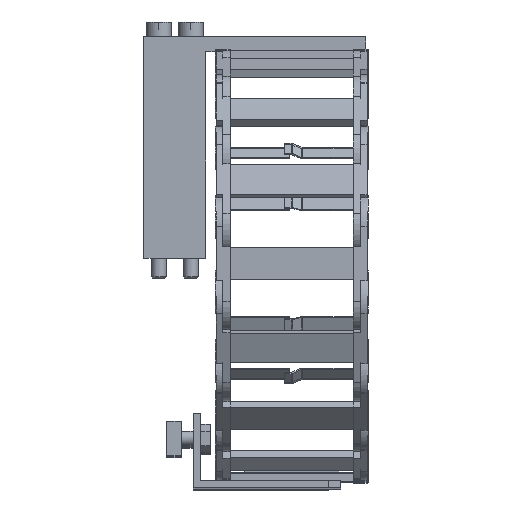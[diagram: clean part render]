
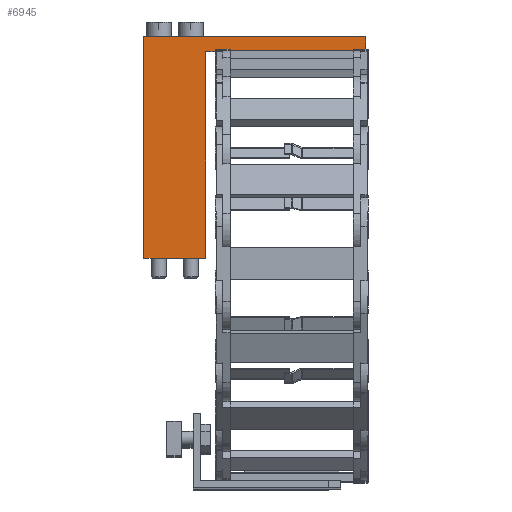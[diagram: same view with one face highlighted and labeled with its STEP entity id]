
A CAD part, top view. The second image highlights one B-rep face of the part: STEP entity #6945.
In plain terms, the highlighted planar face has unit normal (0, 0, 1).
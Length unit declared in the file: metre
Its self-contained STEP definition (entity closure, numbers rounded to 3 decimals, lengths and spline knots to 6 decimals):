
#6945 = ADVANCED_FACE( '', ( #14299 ), #14300, .T. );
#14299 = FACE_OUTER_BOUND( '', #22114, .T. );
#14300 = PLANE( '', #22115 );
#22114 = EDGE_LOOP( '', ( #43373, #43374, #43375, #43376, #43377, #43378, #43379 ) );
#22115 = AXIS2_PLACEMENT_3D( '', #43380, #43381, #43382 );
#43373 = ORIENTED_EDGE( '', *, *, #55769, .F. );
#43374 = ORIENTED_EDGE( '', *, *, #50829, .T. );
#43375 = ORIENTED_EDGE( '', *, *, #52298, .T. );
#43376 = ORIENTED_EDGE( '', *, *, #47474, .T. );
#43377 = ORIENTED_EDGE( '', *, *, #52468, .T. );
#43378 = ORIENTED_EDGE( '', *, *, #55114, .F. );
#43379 = ORIENTED_EDGE( '', *, *, #53518, .F. );
#43380 = CARTESIAN_POINT( '', ( 0.055, 0.184, 0.021 ) );
#43381 = DIRECTION( '', ( 0., 0., 1. ) );
#43382 = DIRECTION( '', ( 1., 0., 0. ) );
#47474 = EDGE_CURVE( '', #57292, #57290, #57293, .T. );
#50829 = EDGE_CURVE( '', #63010, #63014, #63016, .T. );
#52298 = EDGE_CURVE( '', #63014, #57292, #65286, .T. );
#52468 = EDGE_CURVE( '', #57290, #65534, #65535, .T. );
#53518 = EDGE_CURVE( '', #65500, #66997, #66998, .T. );
#55114 = EDGE_CURVE( '', #66997, #65534, #68992, .T. );
#55769 = EDGE_CURVE( '', #63010, #65500, #69734, .T. );
#57290 = VERTEX_POINT( '', #71601 );
#57292 = VERTEX_POINT( '', #71604 );
#57293 = LINE( '', #71605, #71606 );
#63010 = VERTEX_POINT( '', #79509 );
#63014 = VERTEX_POINT( '', #79515 );
#63016 = LINE( '', #79518, #79519 );
#65286 = LINE( '', #82706, #82707 );
#65500 = VERTEX_POINT( '', #83005 );
#65534 = VERTEX_POINT( '', #83048 );
#65535 = LINE( '', #83049, #83050 );
#66997 = VERTEX_POINT( '', #85108 );
#66998 = LINE( '', #85109, #85110 );
#68992 = LINE( '', #87967, #87968 );
#69734 = LINE( '', #88980, #88981 );
#71601 = CARTESIAN_POINT( '', ( -0.02, 0.094, 0.021 ) );
#71604 = CARTESIAN_POINT( '', ( -0.02, 0.184, 0.021 ) );
#71605 = CARTESIAN_POINT( '', ( -0.02, 0.184, 0.021 ) );
#71606 = VECTOR( '', #90340, 1. );
#79509 = CARTESIAN_POINT( '', ( 0.07, 0.178, 0.021 ) );
#79515 = CARTESIAN_POINT( '', ( 0.07, 0.184, 0.021 ) );
#79518 = CARTESIAN_POINT( '', ( 0.07, 0.178, 0.021 ) );
#79519 = VECTOR( '', #94414, 1. );
#82706 = CARTESIAN_POINT( '', ( 0.055, 0.184, 0.021 ) );
#82707 = VECTOR( '', #96130, 1. );
#83005 = CARTESIAN_POINT( '', ( 0.009, 0.178, 0.021 ) );
#83048 = CARTESIAN_POINT( '', ( 0.005, 0.094, 0.021 ) );
#83049 = CARTESIAN_POINT( '', ( -0.02, 0.094, 0.021 ) );
#83050 = VECTOR( '', #96335, 1. );
#85108 = CARTESIAN_POINT( '', ( 0.005, 0.178, 0.021 ) );
#85109 = CARTESIAN_POINT( '', ( 0.055, 0.178, 0.021 ) );
#85110 = VECTOR( '', #97493, 1. );
#87967 = CARTESIAN_POINT( '', ( 0.005, 0.178, 0.021 ) );
#87968 = VECTOR( '', #99053, 1. );
#88980 = CARTESIAN_POINT( '', ( 0.055, 0.178, 0.021 ) );
#88981 = VECTOR( '', #99585, 1. );
#90340 = DIRECTION( '', ( 0., -1., 0. ) );
#94414 = DIRECTION( '', ( 0., 1., 0. ) );
#96130 = DIRECTION( '', ( -1., 0., 0. ) );
#96335 = DIRECTION( '', ( 1., 0., 0. ) );
#97493 = DIRECTION( '', ( -1., 0., 0. ) );
#99053 = DIRECTION( '', ( 0., -1., 0. ) );
#99585 = DIRECTION( '', ( -1., 0., 0. ) );
